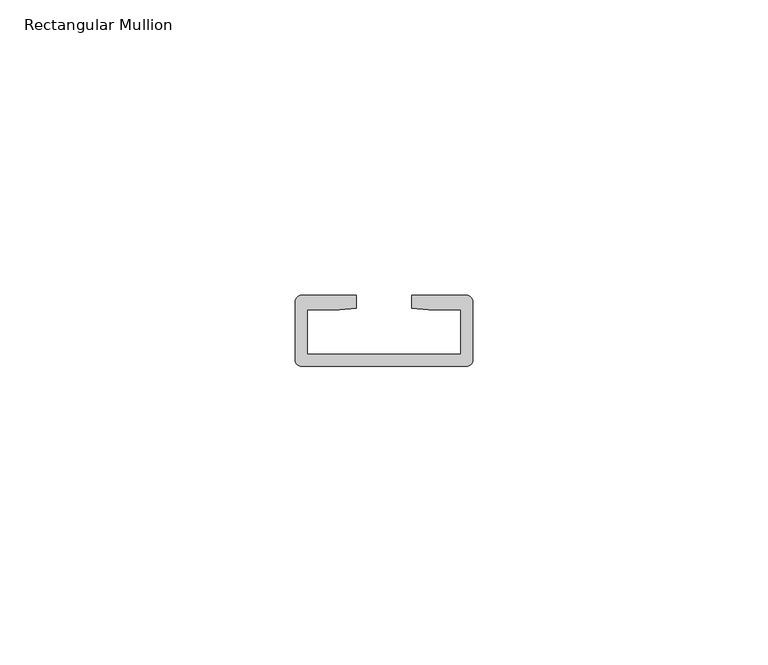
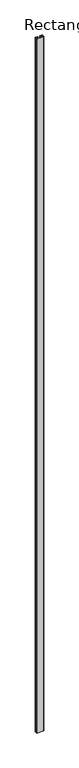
"""IFC4 building model written with IfcOpenShell, lengths in millimetres: member geometry, Rectangular Mullion : RSen_21_CWM_support profile - 30x12_duco projects."""

from ifc_helpers import new_model, si_unit, point, frame, frame_2d, origin, place, context, project, spatial, polyline, circle_curve, trimmed, segment, composite_curve, outline, extrude, source, transform, mapped, element, save


def rectangular_mullion_e211853c(model_context):
    return source(origin(), model_context, "Body", "SweptSolid", [
        extrude(outline(composite_curve([segment(polyline([(-4.6571812, 1.0), (-4.6571812, -1.2), (-7.5399662, -1.401584), (-13.0, -1.401584), (-13.0, -9.0), (13.0, -9.0), (13.0, -1.401584), (7.5399662, -1.401584), (4.6571812, -1.2), (4.6571812, 1.0), (14.0, 1.0)]), True, "CONTINUOUS"), segment(trimmed(circle_curve(frame_2d((14.0, 0.0)), 1.0), [point((14.0, 1.0))], [point((15.0, 0.0))], False, "CARTESIAN"), True, "CONTINUOUS"), segment(polyline([(15.0, 0.0), (15.0, -10.0)]), True, "CONTINUOUS"), segment(trimmed(circle_curve(frame_2d((14.0, -10.0)), 1.0), [point((15.0, -10.0))], [point((14.0, -11.0))], False, "CARTESIAN"), True, "CONTINUOUS"), segment(polyline([(14.0, -11.0), (-14.0, -11.0)]), True, "CONTINUOUS"), segment(trimmed(circle_curve(frame_2d((-14.0, -10.0)), 1.0), [point((-14.0, -11.0))], [point((-15.0, -10.0))], False, "CARTESIAN"), True, "CONTINUOUS"), segment(polyline([(-15.0, -10.0), (-15.0, 0.0)]), True, "CONTINUOUS"), segment(trimmed(circle_curve(frame_2d((-14.0, 0.0)), 1.0), [point((-15.0, 0.0))], [point((-14.0, 1.0))], False, "CARTESIAN"), True, "CONTINUOUS"), segment(polyline([(-14.0, 1.0), (-4.6571812, 1.0)]), True, "CONTINUOUS")], self_intersect=False)), frame((0.0, 0.0, -3000.0), z_axis=(0.0, 0.0, 1.0), x_axis=(1.0, 0.0, 0.0)), (0.0, 0.0, 1.0), 3000.0),
    ])


if __name__ == "__main__":
    model = new_model("IFC4")
    model_context = context("Model", 3, world=origin())
    ifc_project = project(units=[si_unit("LENGTHUNIT", "METRE", prefix="MILLI")], contexts=[model_context])
    site = spatial("IfcSite", under=ifc_project)
    building = spatial("IfcBuilding", under=site)
    placement = place(None, origin())
    rectangular_mullion_shape = rectangular_mullion_e211853c(model_context)
    element("IfcMember", 1, ObjectType="Rectangular Mullion : RSen_21_CWM_support profile - 30x12_duco projects", at=placement, inside=building, context=model_context, shape_type="MappedRepresentation", body=[
        mapped(rectangular_mullion_shape, transform((0.0, 0.0, 0.0), x_axis=(1.0, 0.0, 0.0), y_axis=(0.0, 1.0, 0.0), z_axis=(0.0, 0.0, 1.0))),
    ])
    save(model, "model.ifc")
